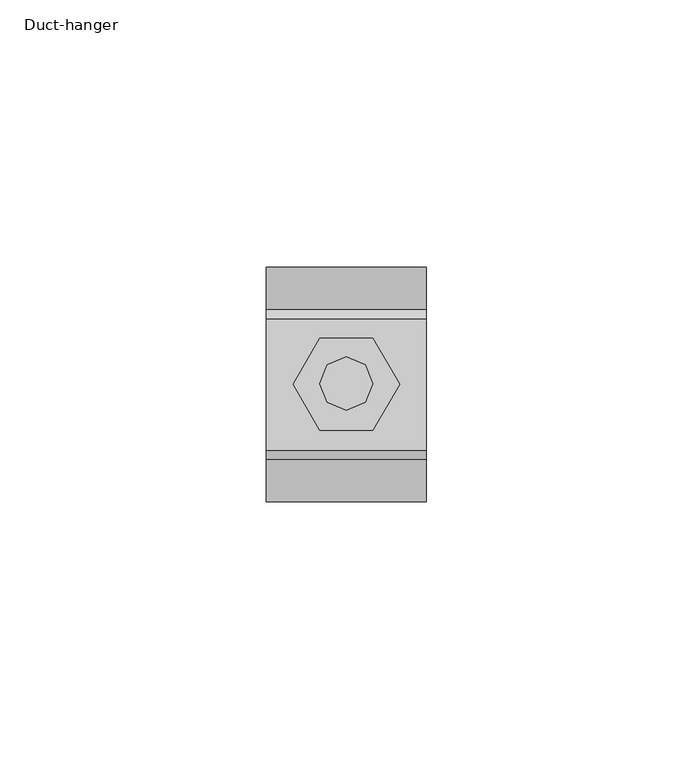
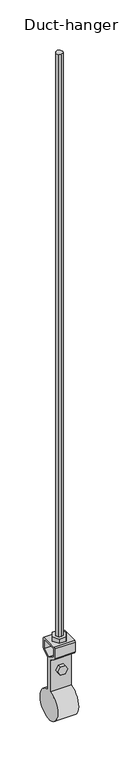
"""IFC4 building model written with IfcOpenShell, lengths in millimetres: proxy geometry, Duct-hanger : Φ44."""

from ifc_helpers import new_model, si_unit, point, frame, frame_2d, origin, place, context, project, spatial, polyline, circle_curve, trimmed, segment, composite_curve, outline, extrude, source, transform, mapped, element, save


def duct_hanger_8c74980c(model_context):
    return source(origin(), model_context, "Body", "SweptSolid", [
        extrude(outline(polyline([(3.5351563, 3.5351563), (5.0003052, 0.0), (3.5351563, -3.5351563), (0.0, -5.0), (-3.5354614, -3.5351563), (-5.0, 0.0), (-3.5354614, 3.5351563), (0.0, 5.0), (3.5351563, 3.5351563)])), frame((0.0, 0.0, -892.01818), z_axis=(0.0, 0.0, 1.0), x_axis=(1.0, 0.0, 0.0)), (0.0, 0.0, 1.0), 892.01818),
        extrude(outline(polyline([(5.0, 8.659668), (10.0, 0.0), (5.0, -8.659668), (-5.0, -8.659668), (-10.0, 0.0), (-5.0, 8.659668), (5.0, 8.659668)])), frame((0.0, 0.0, -892.01818), z_axis=(0.0, 0.0, 1.0), x_axis=(1.0, 0.0, 0.0)), (0.0, 0.0, 1.0), 6.6101074),
        extrude(outline(polyline([(-929.0335098, -3.5931396), (-935.2569595, -7.1862793), (-941.4804092, -3.5931396), (-941.4804092, 3.5931396), (-935.2569595, 7.1862793), (-929.0335098, 3.5931396), (-929.0335098, -3.5931396)])), frame((0.0, -8.2446289, 0.0), z_axis=(0.0, 1.0, 0.0), x_axis=(0.0, 0.0, 1.0)), (0.0, 0.0, 1.0), 16.4892578),
        extrude(outline(composite_curve([segment(polyline([(14.0234375, -893.6868812), (14.0234375, -908.3365394), (12.8845215, -910.4028846), (4.6337891, -915.6107093), (3.494873, -917.6776649), (3.494873, -965.2569595)]), True, "CONTINUOUS"), segment(trimmed(circle_curve(frame_2d((0.0, -986.9775917)), 22.0), [point((3.494873, -965.2569595))], [point((-3.494873, -965.2569595))], False, "CARTESIAN"), True, "CONTINUOUS"), segment(polyline([(-3.494873, -965.2569595), (-3.494873, -917.6776649), (-4.6337891, -915.6107093), (-12.8845215, -910.4028846), (-14.0234375, -908.3365394), (-14.0234375, -893.6868812), (-12.3547363, -892.01818), (12.3547363, -892.01818), (14.0234375, -893.6868812)]), True, "CONTINUOUS")], self_intersect=False), holes=[polyline([(0.0, -914.2845564), (10.7531738, -907.4979164), (10.7531738, -895.271659), (-10.7531738, -895.271659), (-10.7531738, -907.4979164), (0.0, -914.2845564)])]), frame((-15.0, 0.0, 0.0), z_axis=(1.0, 0.0, 0.0), x_axis=(0.0, 1.0, 0.0)), (0.0, 0.0, 1.0), 30.0),
    ])


if __name__ == "__main__":
    model = new_model("IFC4")
    model_context = context("Model", 3, world=origin())
    ifc_project = project(units=[si_unit("LENGTHUNIT", "METRE", prefix="MILLI")], contexts=[model_context])
    site = spatial("IfcSite", under=ifc_project)
    building = spatial("IfcBuilding", under=site)
    placement = place(None, origin())
    duct_hanger_shape = duct_hanger_8c74980c(model_context)
    element("IfcBuildingElementProxy", 1, Name="Duct-hanger : Φ44", ObjectType="Duct-hanger : Φ44", at=placement, inside=building, context=model_context, shape_type="MappedRepresentation", body=[
        mapped(duct_hanger_shape, transform((0.0, 0.0, 0.0), x_axis=(1.0, 0.0, 0.0), y_axis=(0.0, 1.0, 0.0), z_axis=(0.0, 0.0, 1.0))),
    ])
    save(model, "model.ifc")
